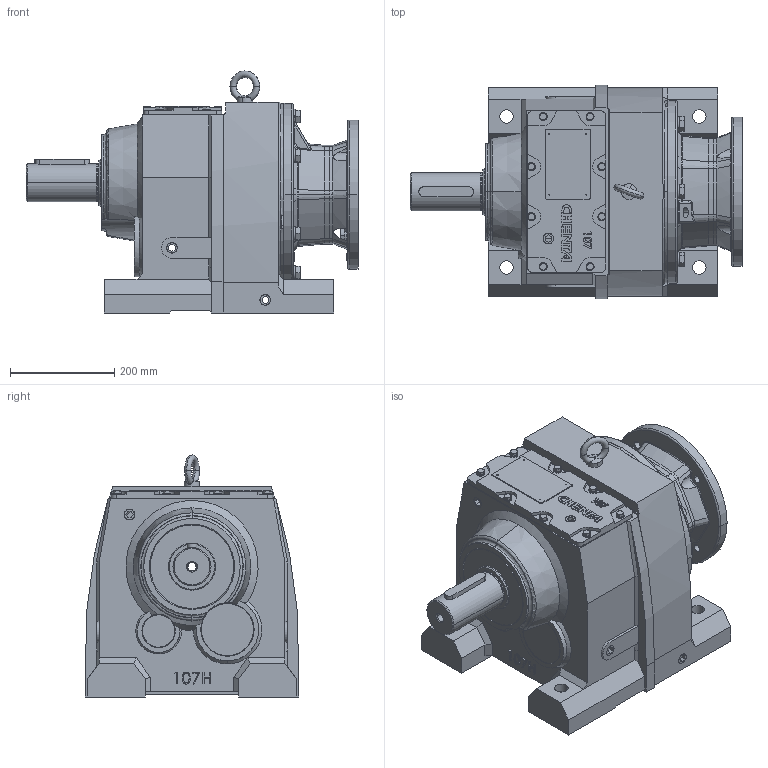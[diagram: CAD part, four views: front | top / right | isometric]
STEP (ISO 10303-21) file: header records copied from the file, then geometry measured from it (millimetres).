
FILE_DESCRIPTION (( 'STEP AP203' ), '1' );
FILE_NAME ('WINL107-284-6TC.STEP', '2013-09-26T10:12:52', ( 'User' ), ( 'Chenta' ), 'SwSTEP 2.0', 'SolidWorks 2011', '' );
FILE_SCHEMA (( 'CONFIG_CONTROL_DESIGN' ));
Length unit declared in the file: millimetre
Products named in the file (1): WINL107-284-6TC
Bounding box: 637 x 409 x 464.35 mm (x, y, z)
Surface area: 1405751.3 mm2 (no closed solid volume)
Topology: 0 solids, 61 shells, 1006 faces, 3029 edges, 2084 vertices
Faces by surface type: plane 534, cylinder 209, cone 128, bspline 93, torus 39, sphere 3
Entity records: 41508 total; most frequent: CARTESIAN_POINT 15179, ORIENTED_EDGE 5257, DIRECTION 5143, EDGE_CURVE 3029, VERTEX_POINT 2084, AXIS2_PLACEMENT_3D 1730, VECTOR 1683, LINE 1683
